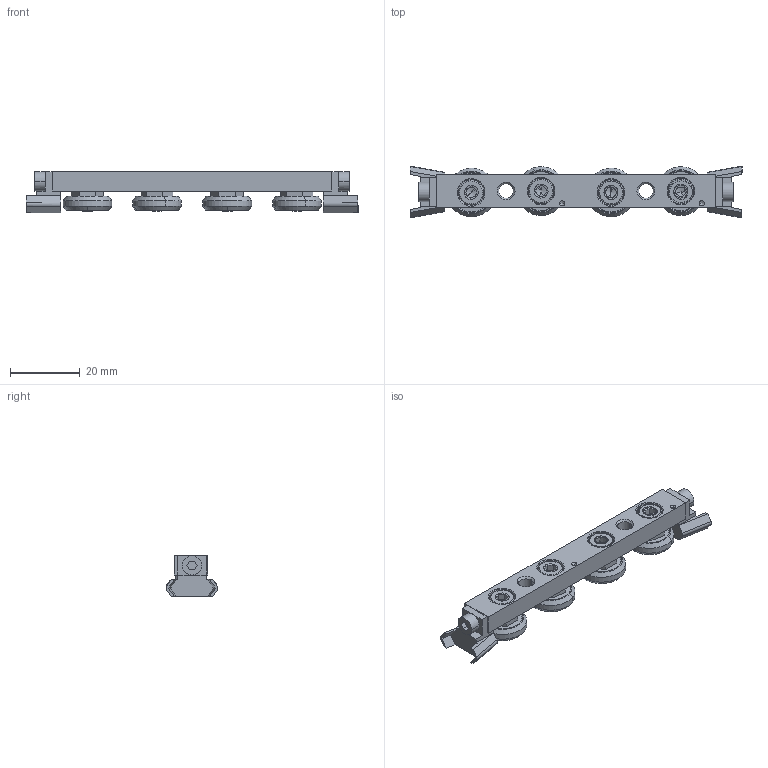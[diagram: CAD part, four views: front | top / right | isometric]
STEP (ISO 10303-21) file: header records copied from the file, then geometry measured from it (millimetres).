
FILE_DESCRIPTION (( 'STEP AP203' ), '1' );
FILE_NAME ('L1918.CSW18-80-2RSTA.step', '2019-06-29T22:03:36', ( '' ), ( '' ), 'SwSTEP 2.0', 'SolidWorks 2017', '' );
FILE_SCHEMA (( 'CONFIG_CONTROL_DESIGN' ));
Length unit declared in the file: millimetre
Products named in the file (6): Part1_L1918.CSW18-80-2RSTA; L1918.CSW18-80-2RSTA; Part8; Part6; Part4; Part5
Assembly tree (13 placements, depth 2):
  L1918.CSW18-80-2RSTA
    Part1_L1918.CSW18-80-2RSTA
    Part8  x6
    Part4  x2
    Part5  x2
    Part6  x2
Bounding box: 95 x 14.8 x 11.95 mm (x, y, z)
Volume: 7663 mm3; surface area: 7464.1 mm2
Topology: 13 solids, 13 shells, 412 faces, 964 edges, 596 vertices
Faces by surface type: plane 212, cone 108, cylinder 72, torus 20
Entity records: 6391 total; most frequent: CARTESIAN_POINT 1035, DIRECTION 1010, ORIENTED_EDGE 876, EDGE_CURVE 438, AXIS2_PLACEMENT_3D 381, VERTEX_POINT 281, VECTOR 248, LINE 248
